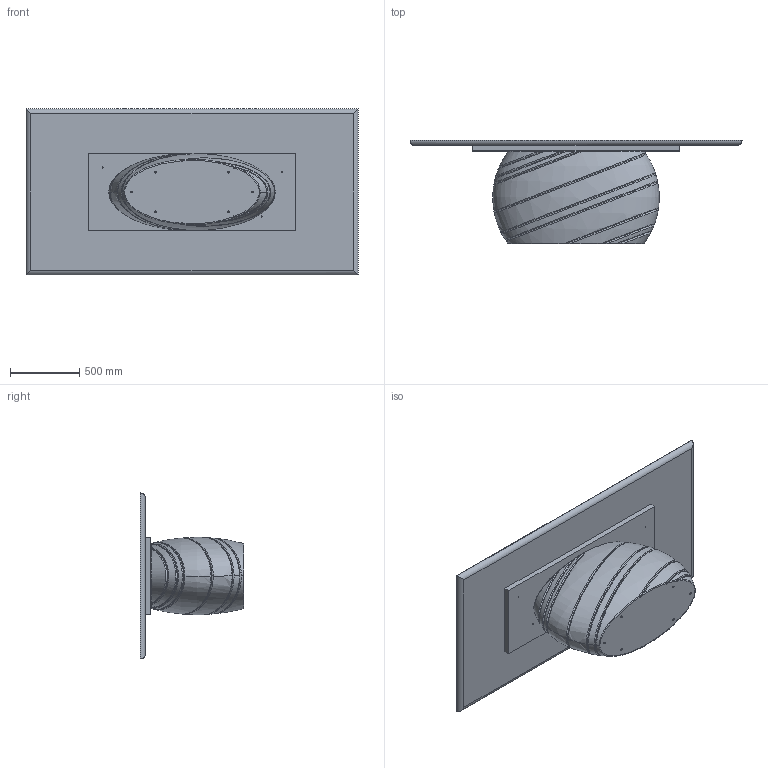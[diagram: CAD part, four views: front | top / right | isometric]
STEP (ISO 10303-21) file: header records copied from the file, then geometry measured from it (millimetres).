
FILE_DESCRIPTION (( 'STEP AP203' ), '1' );
FILE_NAME ('legno 240x120.STEP', '2025-05-26T14:03:48', ( '' ), ( '' ), 'SwSTEP 2.0', 'SolidWorks 2022', '' );
FILE_SCHEMA (( 'CONFIG_CONTROL_DESIGN' ));
Length unit declared in the file: millimetre
Products named in the file (3): GIB000xxx-00-BASE GIOVE X 300; legno 240x120; PIANI_modello 3D x web_Legno 240x120
Assembly tree (2 placements, depth 2):
  legno 240x120
    PIANI_modello 3D x web_Legno 240x120
    GIB000xxx-00-BASE GIOVE X 300
Bounding box: 2400 x 750 x 1200 mm (x, y, z)
Volume: 457542502.5 mm3; surface area: 10533737.7 mm2
Topology: 3 solids, 3 shells, 160 faces, 389 edges, 250 vertices
Faces by surface type: bspline 53, cylinder 48, plane 35, cone 24
Entity records: 37338 total; most frequent: CARTESIAN_POINT 33639, ORIENTED_EDGE 778, DIRECTION 580, EDGE_CURVE 389, VERTEX_POINT 250, AXIS2_PLACEMENT_3D 236, EDGE_LOOP 195, ADVANCED_FACE 160
